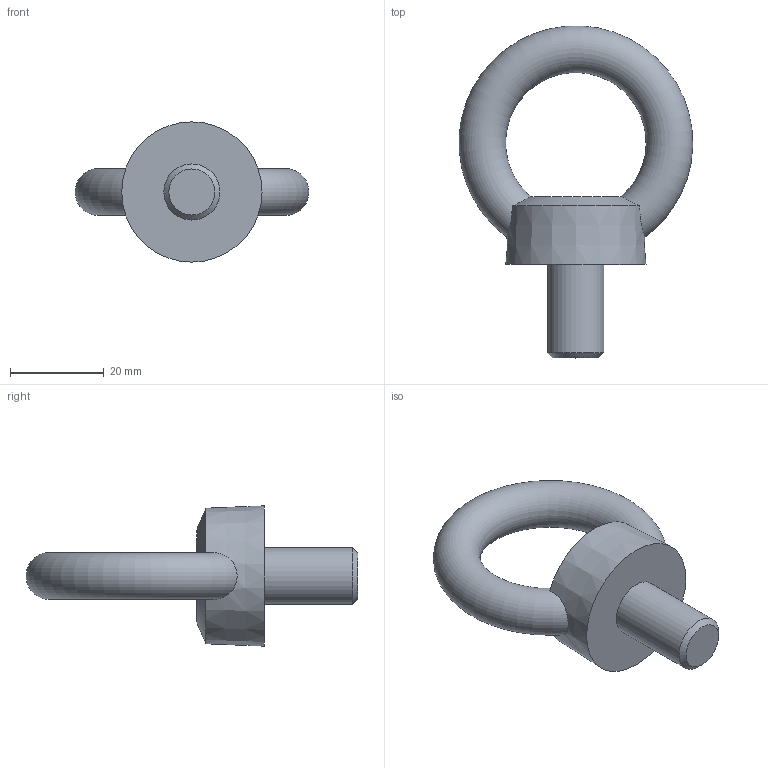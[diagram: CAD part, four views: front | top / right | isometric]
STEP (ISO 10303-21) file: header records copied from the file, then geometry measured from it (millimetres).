
FILE_DESCRIPTION( ( 'STEP AP214' ), '1' );
FILE_NAME( 'p:/temp/worker_139/temp/exporttempdir_4544_425_yoWHj/format_0/LE9304.stp', '2021-03-15T19:08:32', ( 'License CC BY-ND 4.0' ), ( 'CADENAS' ), ' ', 'PARTsolutions', ' ' );
FILE_SCHEMA( ( 'AUTOMOTIVE_DESIGN { 1 0 10303 214 1 1 1 1 }' ) );
Length unit declared in the file: millimetre
Products named in the file (1): _LE9304
Bounding box: 49.93 x 70.97 x 30 mm (x, y, z)
Volume: 19276.2 mm3; surface area: 6170.9 mm2
Topology: 1 solids, 1 shells, 9 faces, 21 edges, 13 vertices
Faces by surface type: cone 4, plane 3, torus 1, cylinder 1
Full cylindrical faces by diameter (mm): 12 x1
Entity records: 468 total; most frequent: CARTESIAN_POINT 197, DIRECTION 36, ORIENTED_EDGE 32, AXIS2_PLACEMENT_3D 18, EDGE_CURVE 16, EDGE_LOOP 14, VERTEX_POINT 13, FACE_OUTER_BOUND 11
